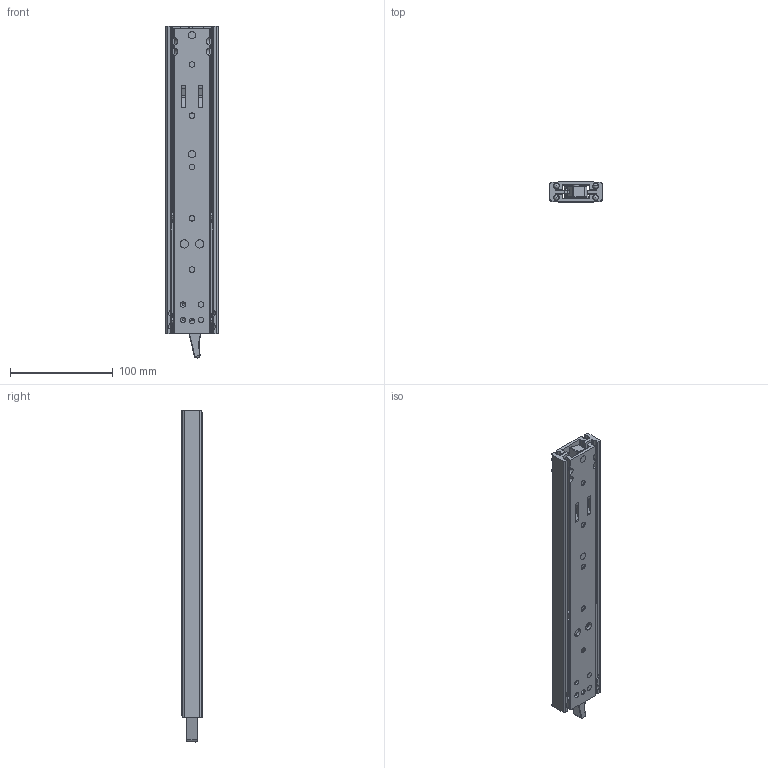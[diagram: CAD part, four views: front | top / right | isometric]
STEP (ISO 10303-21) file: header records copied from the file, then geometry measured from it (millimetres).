
FILE_DESCRIPTION (( 'STEP AP203' ), '1' );
FILE_NAME ('61_12285_02-closed.STEP', '2022-03-25T09:49:25', ( '' ), ( '' ), 'SwSTEP 2.0', 'SolidWorks 2021', '' );
FILE_SCHEMA (( 'CONFIG_CONTROL_DESIGN' ));
Length unit declared in the file: millimetre
Products named in the file (12): 61_12282; 301_000_008_Fitted; 61_13331_Pin Fitted; 61_12275; 61_12280_02_Beam Assembled - Stop Raises ; 61_12719; 370_002_070; 61_12278_02; 61_12274; 400_000_004; 61_12279_02; 61_12285_02-closed
Assembly tree (28 placements, depth 2):
  61_12285_02-closed
    61_12279_02
    61_12280_02_Beam Assembled - Stop Raises   x2
    61_13331_Pin Fitted  x4
    61_12282
    301_000_008_Fitted  x2
    61_12275
    61_12274
    370_002_070  x2
    61_12719  x2
    400_000_004  x8
    61_12278_02  x4
Bounding box: 50.7 x 19.75 x 323.68 mm (x, y, z)
Volume: 173960.5 mm3; surface area: 122117.4 mm2
Topology: 28 solids, 28 shells, 1084 faces, 2904 edges, 1795 vertices
Faces by surface type: cylinder 516, plane 269, torus 93, sphere 89, cone 72, bspline 45
Entity records: 26404 total; most frequent: CARTESIAN_POINT 6502, DIRECTION 3960, ORIENTED_EDGE 3786, EDGE_CURVE 1893, AXIS2_PLACEMENT_3D 1562, VERTEX_POINT 1164, EDGE_LOOP 843, LINE 836
